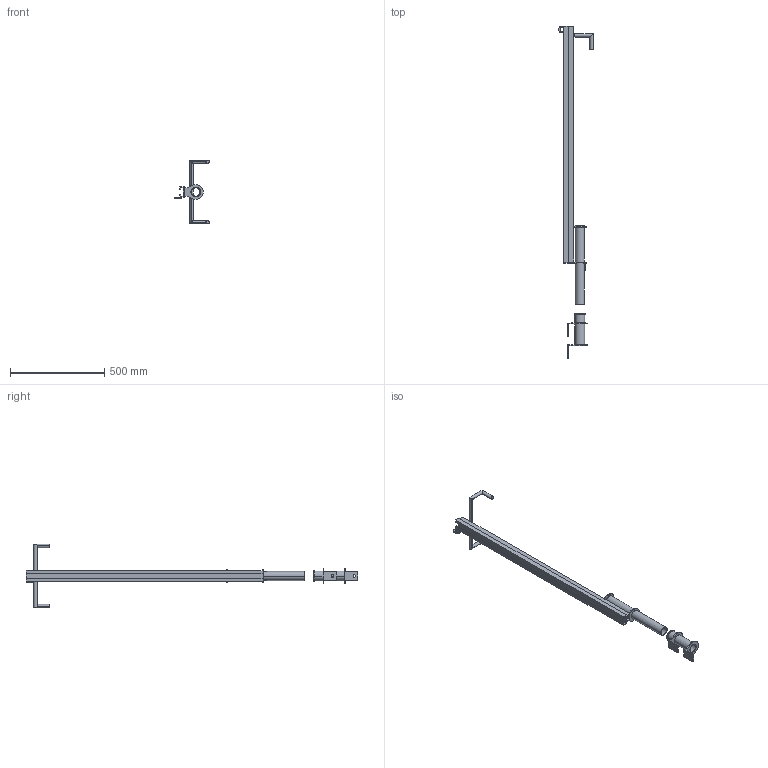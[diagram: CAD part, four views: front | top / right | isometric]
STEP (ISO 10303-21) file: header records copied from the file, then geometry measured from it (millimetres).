
FILE_DESCRIPTION((''),'2;1');
FILE_NAME('52170220','2023-12-12T13:48:46',('hrl'),('HUBER SE'),'CREO PARAMETRIC BY PTC INC, 2023154','CREO PARAMETRIC BY PTC INC, 2023154','');
FILE_SCHEMA(('AUTOMOTIVE_DESIGN { 1 0 10303 214 1 1 1 1 }'));
Length unit declared in the file: millimetre
Products named in the file (1): 52170220
Bounding box: 184.5 x 1765 x 338 mm (x, y, z)
Volume: 1737375.3 mm3; surface area: 777850.9 mm2
Topology: 3 solids, 3 shells, 110 faces, 296 edges, 194 vertices
Faces by surface type: plane 65, cylinder 45
Entity records: 4461 total; most frequent: CARTESIAN_POINT 1123, ORIENTED_EDGE 592, DIRECTION 573, EDGE_CURVE 296, VECTOR 203, LINE 203, VERTEX_POINT 194, AXIS2_PLACEMENT_3D 185
